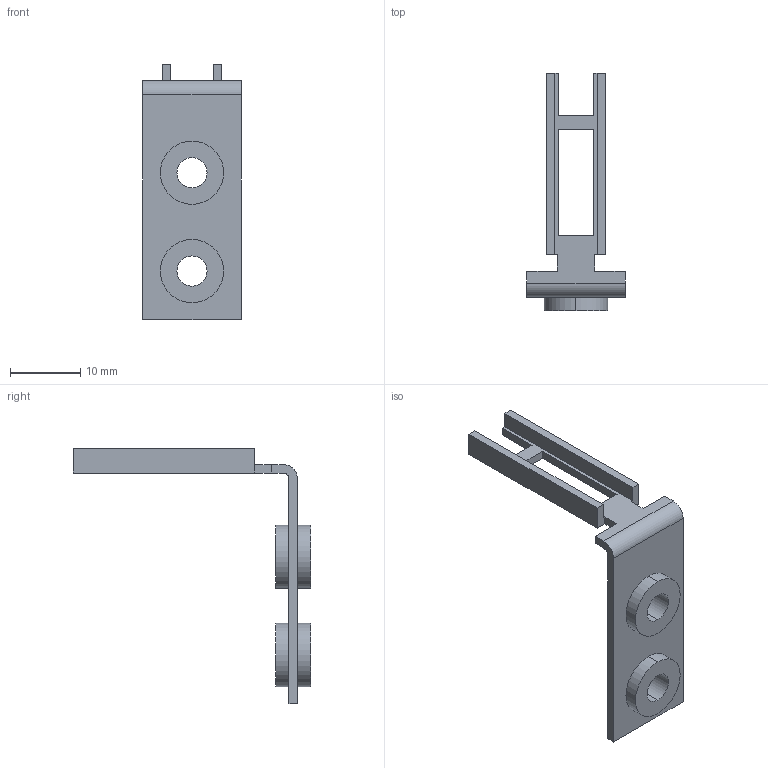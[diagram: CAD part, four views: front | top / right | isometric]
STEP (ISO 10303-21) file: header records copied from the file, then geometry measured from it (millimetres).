
FILE_DESCRIPTION (( 'STEP AP203' ), '1' );
FILE_NAME ('sg-k12.STEP', '2013-07-23T06:02:30', ( ' ' ), ( ' ' ), 'SwSTEP 2.0', 'SolidWorks 2010', '' );
FILE_SCHEMA (( 'CONFIG_CONTROL_DESIGN' ));
Length unit declared in the file: millimetre
Products named in the file (1): sg-k12
Bounding box: 14 x 33.8 x 36.3 mm (x, y, z)
Volume: 1233.1 mm3; surface area: 2051.6 mm2
Topology: 1 solids, 1 shells, 46 faces, 120 edges, 80 vertices
Faces by surface type: plane 32, cylinder 14
Entity records: 1501 total; most frequent: CARTESIAN_POINT 247, DIRECTION 242, ORIENTED_EDGE 240, EDGE_CURVE 120, VECTOR 92, LINE 92, VERTEX_POINT 80, AXIS2_PLACEMENT_3D 75
